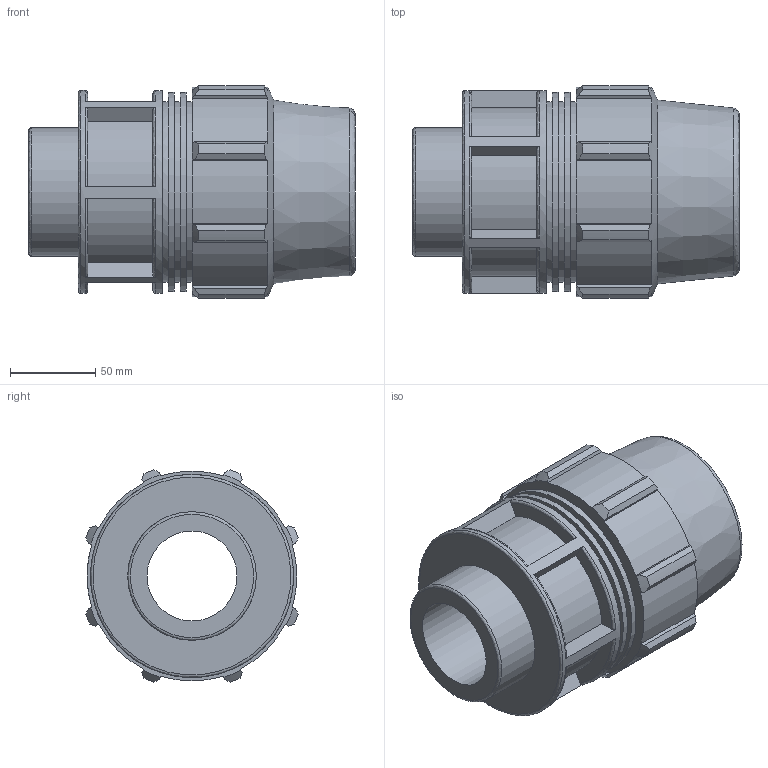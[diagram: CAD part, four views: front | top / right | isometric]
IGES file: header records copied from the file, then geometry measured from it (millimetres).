
Global section: file name: 0702060750250A.ipt; native system: Autodesk Inventor 2015; preprocessor: unknown; author: KIM; date: 20180325.201121; units: millimetre
Bounding box: 191 x 124.2 x 124.2 mm (x, y, z)
Volume: 930642.5 mm3; surface area: 146418.8 mm2
Topology: 1 solids, 1 shells, 125 faces, 333 edges, 224 vertices
Faces by surface type: plane 67, cylinder 29, revolution 19, cone 10
Full cylindrical faces by diameter (mm): 75.184 x1, 105.6 x3, 116.424 x2, 118.8 x1
